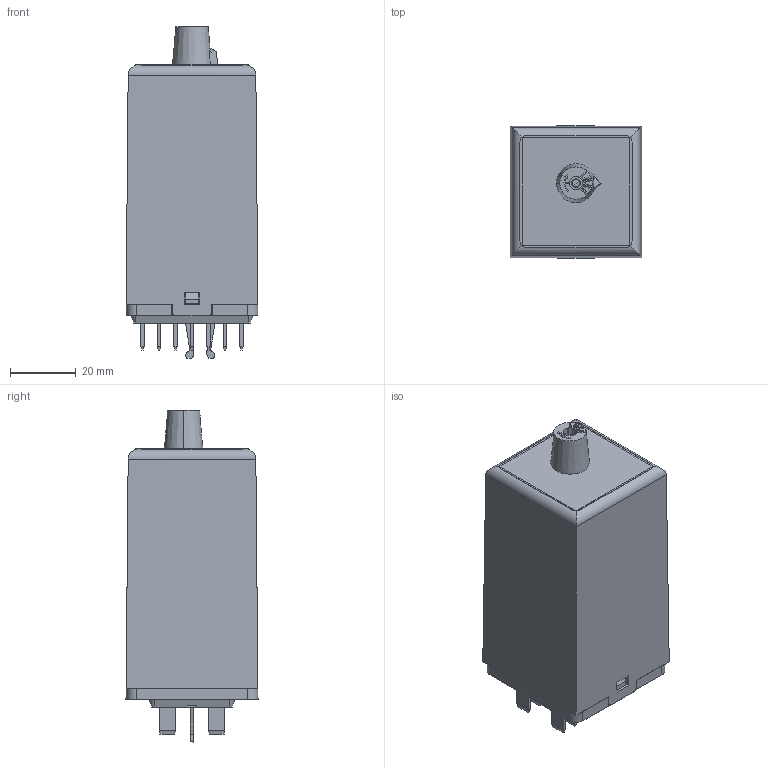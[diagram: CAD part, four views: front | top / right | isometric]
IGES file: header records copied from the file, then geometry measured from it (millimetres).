
Global section: file name: No Iges File Name specified; native system: Autodesk Inventor 2011; preprocessor: AutoDesk Inventor Iges Exporter R2011; author: oey; date: 20110309.071412; units: millimetre
Bounding box: 40 x 40.06 x 100.75 mm (x, y, z)
Volume: 30116.6 mm3; surface area: 36472.6 mm2
Topology: 1 solids, 1 shells, 1588 faces, 4515 edges, 2878 vertices
Faces by surface type: plane 817, bspline 411, cylinder 167, revolution 156, sphere 28, cone 7, torus 2
